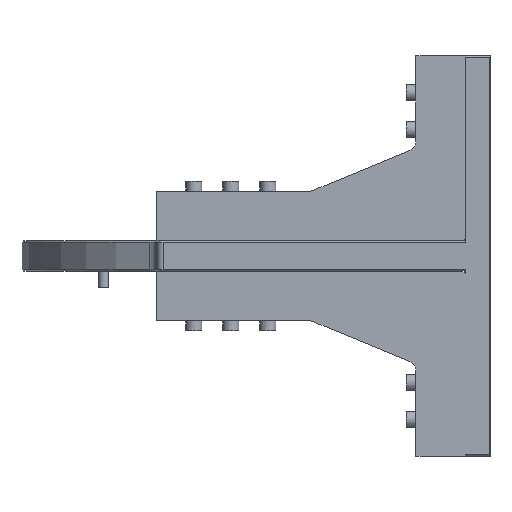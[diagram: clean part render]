
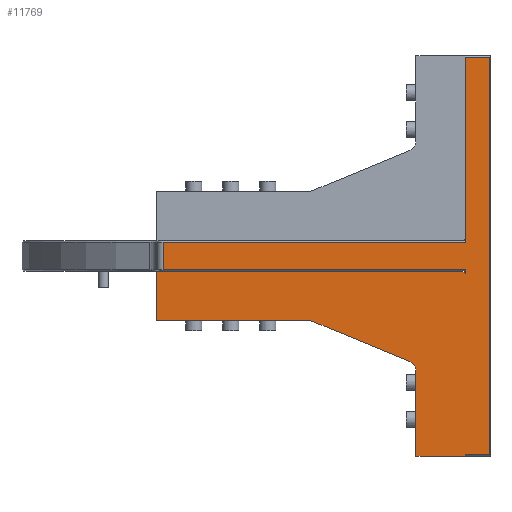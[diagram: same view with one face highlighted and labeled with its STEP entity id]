
A CAD part, left-side view. The second image highlights one B-rep face of the part: STEP entity #11769.
In plain terms, the highlighted planar face has unit normal (-1, 0, 0).
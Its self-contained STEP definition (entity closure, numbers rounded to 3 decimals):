
#53 = VERTEX_POINT ( 'NONE', #7060 ) ;
#182 = EDGE_CURVE ( 'NONE', #15047, #16319, #13777, .T. ) ;
#316 = VERTEX_POINT ( 'NONE', #5561 ) ;
#341 = DIRECTION ( 'NONE',  ( 0., 1., 0. ) ) ;
#413 = ORIENTED_EDGE ( 'NONE', *, *, #17413, .T. ) ;
#422 = DIRECTION ( 'NONE',  ( 0., 0., 1. ) ) ;
#423 = VERTEX_POINT ( 'NONE', #10674 ) ;
#477 = DIRECTION ( 'NONE',  ( 0., -0.707, -0.707 ) ) ;
#526 = EDGE_CURVE ( 'NONE', #12434, #12029, #7389, .T. ) ;
#857 = VECTOR ( 'NONE', #2451, 1000. ) ;
#930 = CARTESIAN_POINT ( 'NONE',  ( -200., 20., -12.5 ) ) ;
#953 = LINE ( 'NONE', #15557, #3080 ) ;
#1059 = EDGE_CURVE ( 'NONE', #4423, #4709, #16453, .T. ) ;
#1444 = ORIENTED_EDGE ( 'NONE', *, *, #5164, .T. ) ;
#1496 = CARTESIAN_POINT ( 'NONE',  ( -200., 22., -12.5 ) ) ;
#1521 = LINE ( 'NONE', #12184, #7552 ) ;
#1659 = ORIENTED_EDGE ( 'NONE', *, *, #8835, .F. ) ;
#1723 = DIRECTION ( 'NONE',  ( 0., 0., 1. ) ) ;
#1801 = DIRECTION ( 'NONE',  ( 0., 0., -1. ) ) ;
#1834 = LINE ( 'NONE', #7010, #2633 ) ;
#1838 = CARTESIAN_POINT ( 'NONE',  ( -200., 146.583, -60.5 ) ) ;
#1946 = VERTEX_POINT ( 'NONE', #15268 ) ;
#2126 = LINE ( 'NONE', #10684, #3851 ) ;
#2215 = ORIENTED_EDGE ( 'NONE', *, *, #15266, .F. ) ;
#2266 = EDGE_CURVE ( 'NONE', #4709, #10213, #953, .T. ) ;
#2451 = DIRECTION ( 'NONE',  ( 0., -1., 0. ) ) ;
#2633 = VECTOR ( 'NONE', #341, 1000. ) ;
#2674 = DIRECTION ( 'NONE',  ( 0., 1., 0. ) ) ;
#3012 = LINE ( 'NONE', #6035, #6846 ) ;
#3080 = VECTOR ( 'NONE', #6086, 1000. ) ;
#3359 = CARTESIAN_POINT ( 'NONE',  ( -200., 20., -161. ) ) ;
#3572 = LINE ( 'NONE', #13315, #14555 ) ;
#3719 = CARTESIAN_POINT ( 'NONE',  ( -200., 20., 162.5 ) ) ;
#3851 = VECTOR ( 'NONE', #8097, 1000. ) ;
#3881 = ORIENTED_EDGE ( 'NONE', *, *, #8012, .F. ) ;
#3940 = LINE ( 'NONE', #930, #17040 ) ;
#3985 = ORIENTED_EDGE ( 'NONE', *, *, #4884, .F. ) ;
#4035 = LINE ( 'NONE', #6418, #13814 ) ;
#4136 = VERTEX_POINT ( 'NONE', #10644 ) ;
#4423 = VERTEX_POINT ( 'NONE', #11990 ) ;
#4454 = EDGE_LOOP ( 'NONE', ( #10642, #8151, #7119, #16840, #12530, #413, #3985, #11126, #17272, #9065, #15847, #16601, #1659, #14848, #3881, #2215, #9416, #1444 ) ) ;
#4498 = DIRECTION ( 'NONE',  ( 0., 0., -1. ) ) ;
#4704 = FACE_OUTER_BOUND ( 'NONE', #4454, .T. ) ;
#4709 = VERTEX_POINT ( 'NONE', #9551 ) ;
#4740 = DIRECTION ( 'NONE',  ( -1., 0., 0. ) ) ;
#4800 = CARTESIAN_POINT ( 'NONE',  ( -200., 68., -92.858 ) ) ;
#4884 = EDGE_CURVE ( 'NONE', #13613, #1946, #16742, .T. ) ;
#4897 = DIRECTION ( 'NONE',  ( 0., 1., 0. ) ) ;
#5164 = EDGE_CURVE ( 'NONE', #423, #316, #13655, .T. ) ;
#5241 = CARTESIAN_POINT ( 'NONE',  ( -200., 20., 162.5 ) ) ;
#5368 = PLANE ( 'NONE',  #16002 ) ;
#5561 = CARTESIAN_POINT ( 'NONE',  ( -200., 0., -161. ) ) ;
#5752 = CARTESIAN_POINT ( 'NONE',  ( -200., 20., -14.5 ) ) ;
#6035 = CARTESIAN_POINT ( 'NONE',  ( -200., 20., -52.5 ) ) ;
#6086 = DIRECTION ( 'NONE',  ( 0., -1., 0. ) ) ;
#6418 = CARTESIAN_POINT ( 'NONE',  ( -200., 0., 162.5 ) ) ;
#6518 = CARTESIAN_POINT ( 'NONE',  ( -200., 60., -162.5 ) ) ;
#6743 = CARTESIAN_POINT ( 'NONE',  ( -200., 20., 161. ) ) ;
#6818 = VERTEX_POINT ( 'NONE', #10091 ) ;
#6846 = VECTOR ( 'NONE', #15758, 1000. ) ;
#7010 = CARTESIAN_POINT ( 'NONE',  ( -200., 20., 11. ) ) ;
#7060 = CARTESIAN_POINT ( 'NONE',  ( -200., 265., -11. ) ) ;
#7081 = DIRECTION ( 'NONE',  ( 0., 0., -1. ) ) ;
#7119 = ORIENTED_EDGE ( 'NONE', *, *, #13508, .F. ) ;
#7142 = CARTESIAN_POINT ( 'NONE',  ( -200., 64.954, -85.46 ) ) ;
#7236 = LINE ( 'NONE', #8890, #7806 ) ;
#7307 = DIRECTION ( 'NONE',  ( 0., 0., -1. ) ) ;
#7389 = CIRCLE ( 'NONE', #15786, 8. ) ;
#7552 = VECTOR ( 'NONE', #4897, 1000. ) ;
#7806 = VECTOR ( 'NONE', #8916, 1000. ) ;
#8012 = EDGE_CURVE ( 'NONE', #12749, #15047, #13073, .T. ) ;
#8097 = DIRECTION ( 'NONE',  ( 0., -1., 0. ) ) ;
#8151 = ORIENTED_EDGE ( 'NONE', *, *, #12971, .T. ) ;
#8223 = CARTESIAN_POINT ( 'NONE',  ( -200., 146.583, -52.5 ) ) ;
#8505 = VERTEX_POINT ( 'NONE', #13038 ) ;
#8835 = EDGE_CURVE ( 'NONE', #16319, #12434, #7236, .T. ) ;
#8861 = VECTOR ( 'NONE', #1723, 1000. ) ;
#8890 = CARTESIAN_POINT ( 'NONE',  ( -200., 52.204, -90.71 ) ) ;
#8902 = EDGE_CURVE ( 'NONE', #6818, #9834, #1834, .T. ) ;
#8916 = DIRECTION ( 'NONE',  ( 0., 0.925, 0.381 ) ) ;
#9065 = ORIENTED_EDGE ( 'NONE', *, *, #1059, .F. ) ;
#9259 = EDGE_CURVE ( 'NONE', #316, #16689, #4035, .T. ) ;
#9379 = VECTOR ( 'NONE', #422, 1000. ) ;
#9416 = ORIENTED_EDGE ( 'NONE', *, *, #9564, .F. ) ;
#9551 = CARTESIAN_POINT ( 'NONE',  ( -200., 270., -12.5 ) ) ;
#9564 = EDGE_CURVE ( 'NONE', #423, #8505, #3940, .T. ) ;
#9640 = CARTESIAN_POINT ( 'NONE',  ( -200., 270., -12.5 ) ) ;
#9666 = EDGE_CURVE ( 'NONE', #10213, #13613, #3572, .T. ) ;
#9830 = CARTESIAN_POINT ( 'NONE',  ( -200., 0., 161. ) ) ;
#9834 = VERTEX_POINT ( 'NONE', #10662 ) ;
#10038 = DIRECTION ( 'NONE',  ( 0., 0., -1. ) ) ;
#10048 = DIRECTION ( 'NONE',  ( 1., 0., 0. ) ) ;
#10091 = CARTESIAN_POINT ( 'NONE',  ( -200., 20., 11. ) ) ;
#10213 = VERTEX_POINT ( 'NONE', #1496 ) ;
#10608 = EDGE_CURVE ( 'NONE', #9834, #53, #16408, .T. ) ;
#10635 = VECTOR ( 'NONE', #2674, 1000. ) ;
#10642 = ORIENTED_EDGE ( 'NONE', *, *, #9259, .T. ) ;
#10644 = CARTESIAN_POINT ( 'NONE',  ( -200., 20., 161. ) ) ;
#10662 = CARTESIAN_POINT ( 'NONE',  ( -200., 265., 11. ) ) ;
#10674 = CARTESIAN_POINT ( 'NONE',  ( -200., 20., -161. ) ) ;
#10684 = CARTESIAN_POINT ( 'NONE',  ( -200., 20., -11. ) ) ;
#11033 = DIRECTION ( 'NONE',  ( 0., 0., 1. ) ) ;
#11102 = DIRECTION ( 'NONE',  ( -1., 0., 0. ) ) ;
#11126 = ORIENTED_EDGE ( 'NONE', *, *, #9666, .F. ) ;
#11212 = CARTESIAN_POINT ( 'NONE',  ( -200., 265., 12.5 ) ) ;
#11251 = DIRECTION ( 'NONE',  ( 0., 0., 1. ) ) ;
#11769 = ADVANCED_FACE ( 'NONE', ( #4704 ), #5368, .F. ) ;
#11831 = CARTESIAN_POINT ( 'NONE',  ( -200., 60., -12.5 ) ) ;
#11990 = CARTESIAN_POINT ( 'NONE',  ( -200., 270., -52.5 ) ) ;
#12029 = VERTEX_POINT ( 'NONE', #8223 ) ;
#12184 = CARTESIAN_POINT ( 'NONE',  ( -200., 20., -162.5 ) ) ;
#12434 = VERTEX_POINT ( 'NONE', #17067 ) ;
#12520 = DIRECTION ( 'NONE',  ( 0., 0., 1. ) ) ;
#12530 = ORIENTED_EDGE ( 'NONE', *, *, #10608, .T. ) ;
#12716 = VECTOR ( 'NONE', #11251, 1000. ) ;
#12749 = VERTEX_POINT ( 'NONE', #6518 ) ;
#12951 = EDGE_CURVE ( 'NONE', #12029, #4423, #3012, .T. ) ;
#12971 = EDGE_CURVE ( 'NONE', #16689, #4136, #15925, .T. ) ;
#13038 = CARTESIAN_POINT ( 'NONE',  ( -200., 20., -162.5 ) ) ;
#13073 = LINE ( 'NONE', #11831, #12716 ) ;
#13315 = CARTESIAN_POINT ( 'NONE',  ( -200., 21., -13.5 ) ) ;
#13508 = EDGE_CURVE ( 'NONE', #6818, #4136, #14075, .T. ) ;
#13613 = VERTEX_POINT ( 'NONE', #5752 ) ;
#13655 = LINE ( 'NONE', #3359, #857 ) ;
#13777 = CIRCLE ( 'NONE', #15573, 8. ) ;
#13814 = VECTOR ( 'NONE', #11033, 1000. ) ;
#13863 = VECTOR ( 'NONE', #12520, 1000. ) ;
#14075 = LINE ( 'NONE', #16502, #9379 ) ;
#14102 = CARTESIAN_POINT ( 'NONE',  ( -200., 60., -92.858 ) ) ;
#14200 = VECTOR ( 'NONE', #4498, 1000. ) ;
#14555 = VECTOR ( 'NONE', #477, 1000. ) ;
#14848 = ORIENTED_EDGE ( 'NONE', *, *, #182, .F. ) ;
#15047 = VERTEX_POINT ( 'NONE', #14102 ) ;
#15266 = EDGE_CURVE ( 'NONE', #8505, #12749, #1521, .T. ) ;
#15268 = CARTESIAN_POINT ( 'NONE',  ( -200., 20., -11. ) ) ;
#15557 = CARTESIAN_POINT ( 'NONE',  ( -200., 20., -12.5 ) ) ;
#15573 = AXIS2_PLACEMENT_3D ( 'NONE', #4800, #4740, #10038 ) ;
#15758 = DIRECTION ( 'NONE',  ( 0., 1., 0. ) ) ;
#15786 = AXIS2_PLACEMENT_3D ( 'NONE', #1838, #11102, #1801 ) ;
#15847 = ORIENTED_EDGE ( 'NONE', *, *, #12951, .F. ) ;
#15925 = LINE ( 'NONE', #6743, #10635 ) ;
#16002 = AXIS2_PLACEMENT_3D ( 'NONE', #5241, #10048, #7081 ) ;
#16319 = VERTEX_POINT ( 'NONE', #7142 ) ;
#16408 = LINE ( 'NONE', #11212, #14200 ) ;
#16453 = LINE ( 'NONE', #9640, #8861 ) ;
#16502 = CARTESIAN_POINT ( 'NONE',  ( -200., 20., 162.5 ) ) ;
#16601 = ORIENTED_EDGE ( 'NONE', *, *, #526, .F. ) ;
#16689 = VERTEX_POINT ( 'NONE', #9830 ) ;
#16742 = LINE ( 'NONE', #3719, #13863 ) ;
#16840 = ORIENTED_EDGE ( 'NONE', *, *, #8902, .T. ) ;
#17040 = VECTOR ( 'NONE', #7307, 1000. ) ;
#17067 = CARTESIAN_POINT ( 'NONE',  ( -200., 143.537, -53.103 ) ) ;
#17272 = ORIENTED_EDGE ( 'NONE', *, *, #2266, .F. ) ;
#17413 = EDGE_CURVE ( 'NONE', #53, #1946, #2126, .T. ) ;
